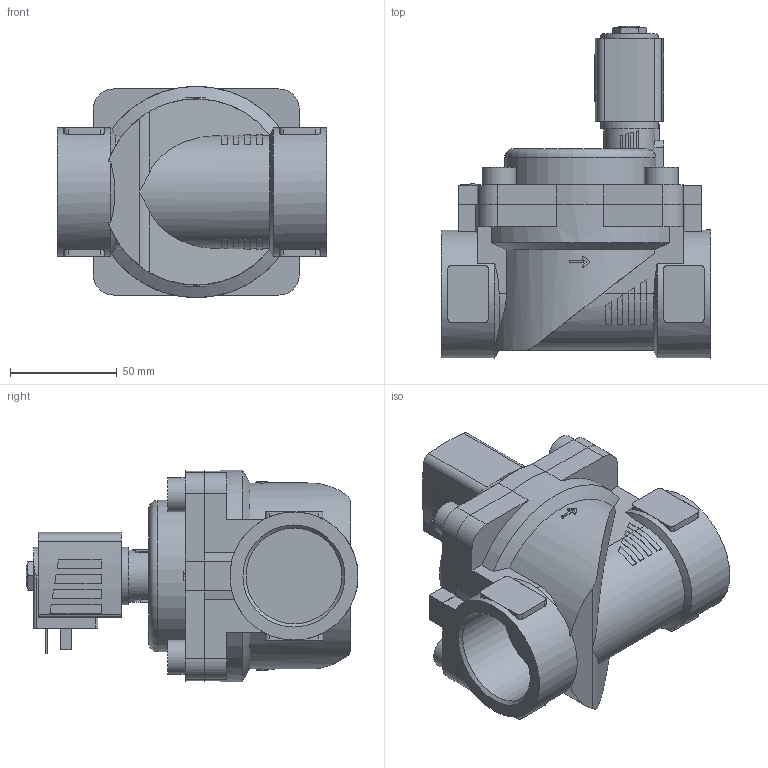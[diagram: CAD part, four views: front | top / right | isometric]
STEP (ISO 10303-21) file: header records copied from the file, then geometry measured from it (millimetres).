
FILE_DESCRIPTION(/* description */ ('STEP AP214'),/* implementation_level */ '2;1');
FILE_NAME(/* name */ '6281-248893-2_2-Way_Solenoid_Valve__Servo-assisted__General_Purpose',/* time_stamp */ '2024-09-02T21:25:58+02:00',/* author */ ('License CC BY-ND 4.0'),/* organization */ ('CADENAS'),/* preprocessor_version */ 'ST-DEVELOPER v19.3',/* originating_system */ 'PARTsolutions',/* authorisation */ ' ');
FILE_SCHEMA (('AUTOMOTIVE_DESIGN {1 0 10303 214 3 1 1}'));
Length unit declared in the file: millimetre
Products named in the file (4): 6281-248893-2/2-Way Solenoid Valve, Servo-assisted, General Purpose; 5281ev400MS2/2-Wege-Magnetventil mit Servomembran-Deckel 99 ; 6213-40G1_1/2MS-Gehaeuse-; AC10ex-5NA38-Plan-Coil
Assembly tree (3 placements, depth 2):
  6281-248893-2/2-Way Solenoid Valve, Servo-assisted, General Purpose
    5281ev400MS2/2-Wege-Magnetventil mit Servomembran-Deckel 99 
    6213-40G1_1/2MS-Gehaeuse-
    AC10ex-5NA38-Plan-Coil
Bounding box: 126 x 155.5 x 99 mm (x, y, z)
Volume: 670671 mm3; surface area: 93042.5 mm2
Topology: 3 solids, 3 shells, 346 faces, 903 edges, 597 vertices
Faces by surface type: plane 235, cylinder 95, cone 15, torus 1
Full cylindrical faces by diameter (mm): 2.013 x1, 9.74 x1, 16 x4, 27 x1, 44.845 x2, 60 x2
Entity records: 11900 total; most frequent: CARTESIAN_POINT 2107, ORIENTED_EDGE 1760, DIRECTION 1758, EDGE_CURVE 880, AXIS2_PLACEMENT_3D 602, VERTEX_POINT 589, LINE 554, VECTOR 554
